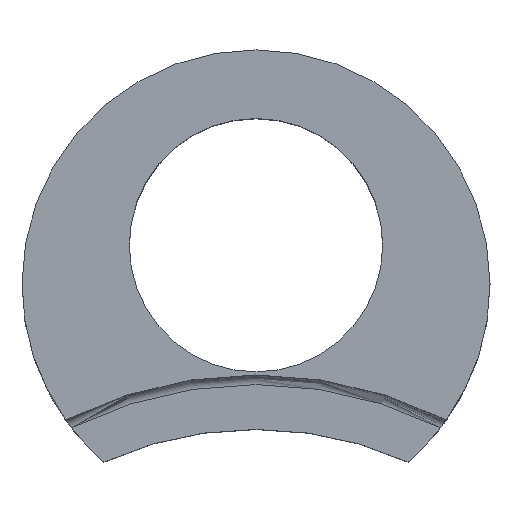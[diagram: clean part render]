
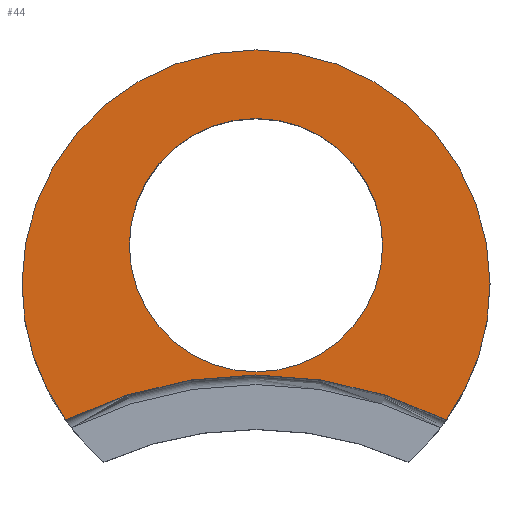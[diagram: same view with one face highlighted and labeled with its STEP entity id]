
A CAD part, top view. The second image highlights one B-rep face of the part: STEP entity #44.
In plain terms, the highlighted planar face has unit normal (0, 0, 1).
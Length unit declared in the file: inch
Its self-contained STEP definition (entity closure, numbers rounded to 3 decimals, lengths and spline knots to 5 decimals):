
#3 = ORIENTED_EDGE ( 'NONE', *, *, #99, .T. ) ;
#29 = DIRECTION ( 'NONE',  ( 1., 0., 0. ) ) ;
#34 = EDGE_CURVE ( 'NONE', #98, #139, #219, .T. ) ;
#36 = EDGE_CURVE ( 'NONE', #83, #82, #192, .T. ) ;
#39 = EDGE_LOOP ( 'NONE', ( #42, #56 ) ) ;
#42 = ORIENTED_EDGE ( 'NONE', *, *, #36, .F. ) ;
#44 = ADVANCED_FACE ( 'NONE', ( #103, #105 ), #185, .T. ) ;
#45 = ORIENTED_EDGE ( 'NONE', *, *, #46, .F. ) ;
#46 = EDGE_CURVE ( 'NONE', #123, #139, #270, .T. ) ;
#47 = ORIENTED_EDGE ( 'NONE', *, *, #135, .T. ) ;
#50 = ORIENTED_EDGE ( 'NONE', *, *, #34, .T. ) ;
#51 = EDGE_LOOP ( 'NONE', ( #45, #47, #3, #50 ) ) ;
#56 = ORIENTED_EDGE ( 'NONE', *, *, #102, .F. ) ;
#82 = VERTEX_POINT ( 'NONE', #242 ) ;
#83 = VERTEX_POINT ( 'NONE', #256 ) ;
#96 = VERTEX_POINT ( 'NONE', #361 ) ;
#98 = VERTEX_POINT ( 'NONE', #333 ) ;
#99 = EDGE_CURVE ( 'NONE', #96, #98, #281, .T. ) ;
#102 = EDGE_CURVE ( 'NONE', #82, #83, #358, .T. ) ;
#103 = FACE_BOUND ( 'NONE', #39, .T. ) ;
#105 = FACE_OUTER_BOUND ( 'NONE', #51, .T. ) ;
#123 = VERTEX_POINT ( 'NONE', #320 ) ;
#135 = EDGE_CURVE ( 'NONE', #123, #96, #326, .T. ) ;
#139 = VERTEX_POINT ( 'NONE', #305 ) ;
#185 = PLANE ( 'NONE',  #204 ) ;
#192 = CIRCLE ( 'NONE', #200, 0.203 ) ;
#195 = DIRECTION ( 'NONE',  ( 0., 0., 1. ) ) ;
#196 = CARTESIAN_POINT ( 'NONE',  ( 0., 0.062, 0. ) ) ;
#197 = DIRECTION ( 'NONE',  ( 1., 0., 0. ) ) ;
#198 = DIRECTION ( 'NONE',  ( 0., 0., 1. ) ) ;
#199 = CARTESIAN_POINT ( 'NONE',  ( 0., 0., 0. ) ) ;
#200 = AXIS2_PLACEMENT_3D ( 'NONE', #196, #195, #29 ) ;
#201 = DIRECTION ( 'NONE',  ( 1., 0., 0. ) ) ;
#202 = DIRECTION ( 'NONE',  ( 0., 0., 1. ) ) ;
#203 = AXIS2_PLACEMENT_3D ( 'NONE', #218, #202, #201 ) ;
#204 = AXIS2_PLACEMENT_3D ( 'NONE', #199, #198, #197 ) ;
#218 = CARTESIAN_POINT ( 'NONE',  ( 0., 0., 0. ) ) ;
#219 = CIRCLE ( 'NONE', #203, 0.375 ) ;
#242 = CARTESIAN_POINT ( 'NONE',  ( -0.203, 0.062, 0. ) ) ;
#243 = DIRECTION ( 'NONE',  ( 0., 0., 1. ) ) ;
#256 = CARTESIAN_POINT ( 'NONE',  ( 0.203, 0.062, 0. ) ) ;
#262 = DIRECTION ( 'NONE',  ( 1., 0., 0. ) ) ;
#270 = CIRCLE ( 'NONE', #271, 0.6825 ) ;
#271 = AXIS2_PLACEMENT_3D ( 'NONE', #273, #243, #262 ) ;
#273 = CARTESIAN_POINT ( 'NONE',  ( 0., -0.8285, 0. ) ) ;
#276 = CARTESIAN_POINT ( 'NONE',  ( 0., 0., 0. ) ) ;
#277 = AXIS2_PLACEMENT_3D ( 'NONE', #308, #307, #306 ) ;
#281 = CIRCLE ( 'NONE', #324, 0.375 ) ;
#287 = DIRECTION ( 'NONE',  ( 0., 0., 1. ) ) ;
#305 = CARTESIAN_POINT ( 'NONE',  ( -0.30512, -0.218, 0. ) ) ;
#306 = DIRECTION ( 'NONE',  ( 1., 0., 0. ) ) ;
#307 = DIRECTION ( 'NONE',  ( 0., 0., 1. ) ) ;
#308 = CARTESIAN_POINT ( 'NONE',  ( 0., 0.062, 0. ) ) ;
#313 = DIRECTION ( 'NONE',  ( 1., 0., 0. ) ) ;
#314 = AXIS2_PLACEMENT_3D ( 'NONE', #317, #331, #313 ) ;
#317 = CARTESIAN_POINT ( 'NONE',  ( 0., 0., 0. ) ) ;
#320 = CARTESIAN_POINT ( 'NONE',  ( 0.30512, -0.218, 0. ) ) ;
#323 = DIRECTION ( 'NONE',  ( 1., 0., 0. ) ) ;
#324 = AXIS2_PLACEMENT_3D ( 'NONE', #276, #287, #323 ) ;
#326 = CIRCLE ( 'NONE', #314, 0.375 ) ;
#331 = DIRECTION ( 'NONE',  ( 0., 0., 1. ) ) ;
#333 = CARTESIAN_POINT ( 'NONE',  ( -0.375, 0., 0. ) ) ;
#358 = CIRCLE ( 'NONE', #277, 0.203 ) ;
#361 = CARTESIAN_POINT ( 'NONE',  ( 0.375, 0., 0. ) ) ;
